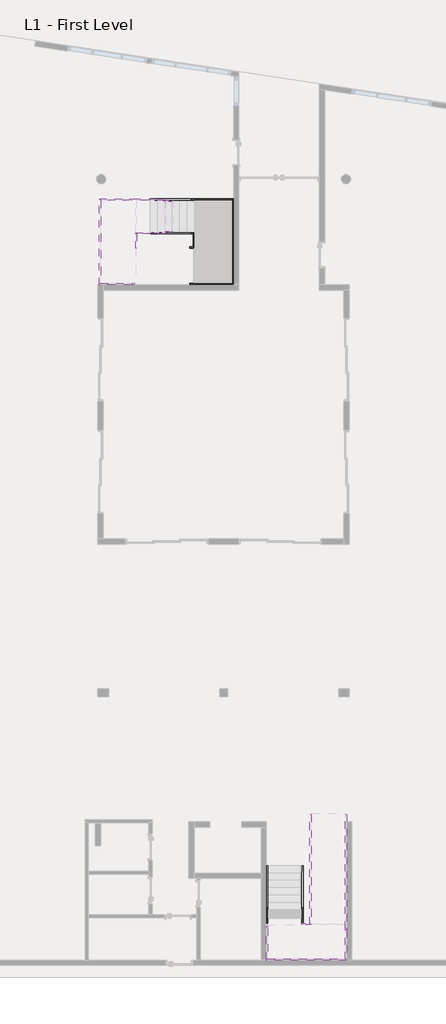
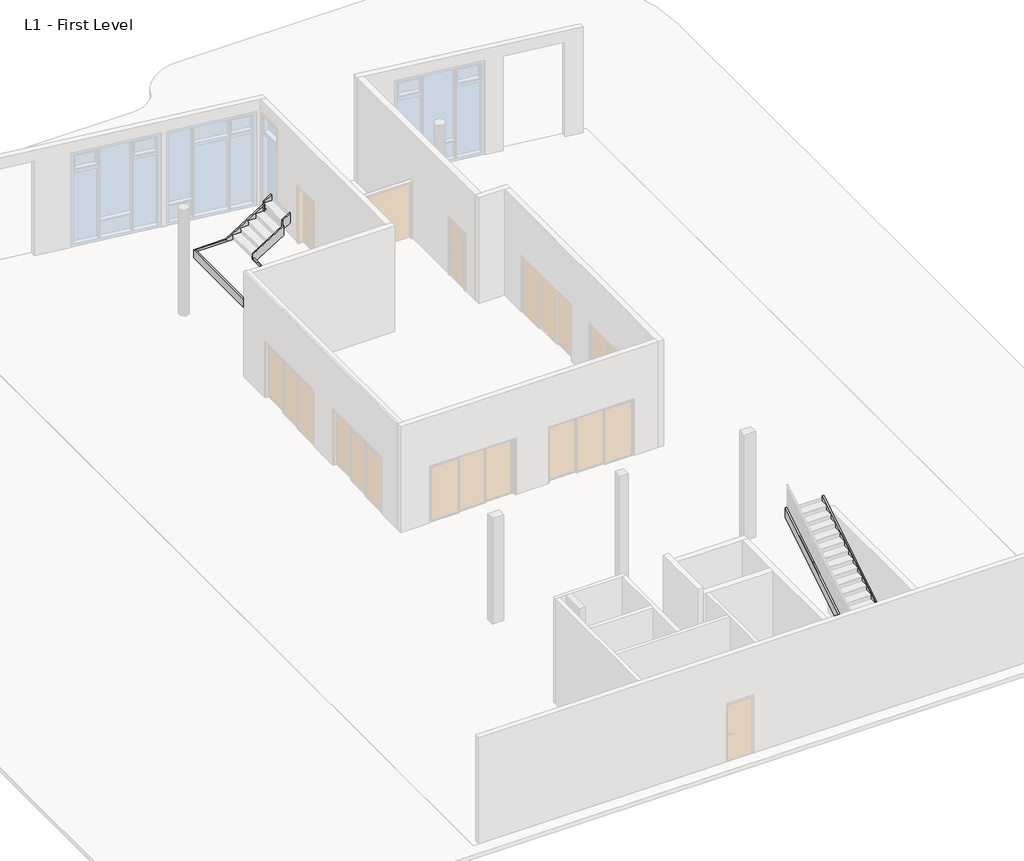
# One storey, part 4 of 4: 24 members.
"""IFC4 building model written with IfcOpenShell, lengths in millimetres."""

from ifc_helpers import new_model, si_unit, frame, origin, place, context, project, spatial, polyline, outline, extrude, faceted_brep, element, save

model = new_model("IFC4")

# Units and contexts
model_context = context("Model", 3, world=origin())
ifc_project = project(units=[si_unit("LENGTHUNIT", "METRE", prefix="MILLI")], contexts=[model_context])

# Site, building, storey
site = spatial("IfcSite", under=ifc_project)
building = spatial("IfcBuilding", under=site)
storey = spatial("IfcBuildingStorey", under=building, Name="L1 - First Level", Elevation=152.4)

# Members
placement = place(None, origin())
element("IfcMember", 1, ObjectType="Stringer - 2\" Width", at=placement, inside=storey, context=model_context, shape_type="SweptSolid", body=[
    extrude(outline(polyline([(367.025224, 11696.7000296), (152.4, 11696.7000296), (152.4, 11927.5811178), (1160.6695652, 13521.9073678), (1465.4695652, 13433.6151441), (367.025224, 11696.7000296)])), frame((0.0, 29527.4998803, 0.0), z_axis=(0.0, 1.0, 0.0), x_axis=(0.0, 0.0, 1.0)), (0.0, 0.0, 1.0), 50.8),
])
element("IfcMember", 2, ObjectType="Stringer - 2\" Width", at=placement, inside=storey, context=model_context, shape_type="SweptSolid", body=[
    extrude(outline(polyline([(367.025224, 11696.7000296), (152.4, 11696.7000296), (152.4, 11927.5811178), (1034.4356754, 13322.3000296), (1395.0726548, 13322.3000296), (367.025224, 11696.7000296)])), frame((0.0, 28244.8058669, 0.0), z_axis=(0.0, 1.0, 0.0), x_axis=(0.0, 0.0, 1.0)), (0.0, 0.0, 1.0), 50.8),
])
element("IfcMember", 3, ObjectType="Stringer - 2\" Width", at=placement, inside=storey, context=model_context, shape_type="SweptSolid", body=[
    extrude(outline(polyline([(1160.6695652, 13503.6926913), (1465.4695652, 13591.984915), (3055.7304348, 11077.384915), (2750.9304348, 10989.0926913), (1160.6695652, 13503.6926913)])), frame((0.0, 26315.1151067, 0.0), z_axis=(0.0, 1.0, 0.0), x_axis=(0.0, 0.0, 1.0)), (0.0, 0.0, 1.0), 50.8),
])
element("IfcMember", 4, ObjectType="Stringer - 2\" Width", at=placement, inside=storey, context=model_context, shape_type="SweptSolid", body=[
    extrude(outline(polyline([(1243.2578098, 13373.1000296), (1603.8947892, 13373.1000296), (2985.3335244, 11188.7000296), (2624.696545, 11188.7000296), (1243.2578098, 13373.1000296)])), frame((0.0, 27698.7058721, 0.0), z_axis=(0.0, 1.0, 0.0), x_axis=(0.0, 0.0, 1.0)), (0.0, 0.0, 1.0), 50.8),
])
element("IfcMember", 5, ObjectType="Stringer - 2\" Width", at=placement, inside=storey, context=model_context, shape_type="Brep", body=[
    faceted_brep([(13591.984915, 26365.9151067, 1465.4695652), (13591.984915, 26315.1151067, 1465.4695652), (14852.6500296, 26315.1151067, 1465.4695652), (14801.8500296, 26365.9151067, 1465.4695652), (13503.6926913, 26365.9151067, 1160.6695652), (14801.8500296, 26365.9151067, 1160.6695652), (13503.6926913, 26315.1151067, 1160.6695652), (14852.6500296, 26315.1151067, 1160.6695652)], [[[0, 1, 2, 3]], [[4, 0, 3, 5]], [[6, 4, 5, 7]], [[1, 6, 7, 2]], [[1, 0, 4, 6]], [[2, 7, 5, 3]]]),
])
element("IfcMember", 6, ObjectType="Stringer - 2\" Width", at=placement, inside=storey, context=model_context, shape_type="SweptSolid", body=[
    extrude(outline(polyline([(14852.6500296, 26315.1151067), (14801.8500296, 26365.9151067), (14801.8500296, 29527.4998803), (14852.6500296, 29578.2998803), (14852.6500296, 26315.1151067)])), frame((0.0, 0.0, 1160.6695652), z_axis=(0.0, 0.0, 1.0), x_axis=(1.0, 0.0, 0.0)), (0.0, 0.0, 1.0), 304.8),
])
element("IfcMember", 7, ObjectType="Stringer - 2\" Width", at=placement, inside=storey, context=model_context, shape_type="Brep", body=[
    faceted_brep([(14801.8500296, 29527.4998803, 1465.4695652), (14852.6500296, 29578.2998803, 1465.4695652), (13433.6151441, 29578.2998803, 1465.4695652), (13433.6151441, 29527.4998803, 1465.4695652), (14801.8500296, 29527.4998803, 1160.6695652), (13521.9073678, 29527.4998803, 1160.6695652), (14852.6500296, 29578.2998803, 1160.6695652), (13521.9073678, 29578.2998803, 1160.6695652)], [[[0, 1, 2, 3]], [[4, 0, 3, 5]], [[6, 4, 5, 7]], [[1, 6, 7, 2]], [[1, 0, 4, 6]], [[2, 7, 5, 3]]]),
])
element("IfcMember", 8, ObjectType="Stringer - 2\" Width", at=placement, inside=storey, context=model_context, shape_type="SweptSolid", body=[
    extrude(outline(polyline([(13322.3000296, 28295.6058669), (13373.1000296, 28295.6058669), (13373.1000296, 27749.5058721), (13322.3000296, 27749.5058721), (13322.3000296, 28295.6058669)])), frame((0.0, 0.0, 1160.6695652), z_axis=(0.0, 0.0, 1.0), x_axis=(1.0, 0.0, 0.0)), (0.0, 0.0, 1.0), 304.8),
])
element("IfcMember", 9, ObjectType="Stringer - 2\" Width", at=placement, inside=storey, context=model_context, shape_type="SweptSolid", body=[
    extrude(outline(polyline([(3055.7304348, 10919.0151441), (2750.9304348, 11007.3073678), (3540.301288, 12255.5000296), (3900.9382675, 12255.5000296), (3055.7304348, 10919.0151441)])), frame((0.0, 29527.4998803, 0.0), z_axis=(0.0, 1.0, 0.0), x_axis=(0.0, 0.0, 1.0)), (0.0, 0.0, 1.0), 50.8),
])
element("IfcMember", 10, ObjectType="Stringer - 2\" Width", at=placement, inside=storey, context=model_context, shape_type="SweptSolid", body=[
    extrude(outline(polyline([(3194.1556588, 11137.9000296), (2833.5186793, 11137.9000296), (3540.301288, 12255.5000296), (3900.9382675, 12255.5000296), (3194.1556588, 11137.9000296)])), frame((0.0, 28244.8058669, 0.0), z_axis=(0.0, 1.0, 0.0), x_axis=(0.0, 0.0, 1.0)), (0.0, 0.0, 1.0), 50.8),
])
element("IfcMember", 11, ObjectType="Stringer - 2\" Width", at=placement, inside=storey, context=model_context, shape_type="Brep", body=[
    faceted_brep([(10919.0151441, 29527.4998803, 3055.7304348), (10919.0151441, 29578.2998803, 3055.7304348), (9753.6000088, 29578.2998803, 3055.7304348), (9804.4000088, 29527.4998803, 3055.7304348), (11007.3073678, 29527.4998803, 2750.9304348), (9804.4000088, 29527.4998803, 2750.9304348), (11007.3073678, 29578.2998803, 2750.9304348), (9753.6000088, 29578.2998803, 2750.9304348)], [[[0, 1, 2, 3]], [[4, 0, 3, 5]], [[6, 4, 5, 7]], [[1, 6, 7, 2]], [[1, 0, 4, 6]], [[2, 7, 5, 3]]]),
])
element("IfcMember", 12, ObjectType="Stringer - 2\" Width", at=placement, inside=storey, context=model_context, shape_type="SweptSolid", body=[
    extrude(outline(polyline([(9753.6000088, 29578.2998803), (9804.4000088, 29527.4998803), (9804.4000088, 26365.9151067), (9753.6000088, 26315.1151067), (9753.6000088, 29578.2998803)])), frame((0.0, 0.0, 2750.9304348), z_axis=(0.0, 0.0, 1.0), x_axis=(1.0, 0.0, 0.0)), (0.0, 0.0, 1.0), 304.8),
])
element("IfcMember", 13, ObjectType="Stringer - 2\" Width", at=placement, inside=storey, context=model_context, shape_type="Brep", body=[
    faceted_brep([(9804.4000088, 26365.9151067, 3055.7304348), (9753.6000088, 26315.1151067, 3055.7304348), (11077.384915, 26315.1151067, 3055.7304348), (11077.384915, 26365.9151067, 3055.7304348), (9804.4000088, 26365.9151067, 2750.9304348), (10989.0926913, 26365.9151067, 2750.9304348), (9753.6000088, 26315.1151067, 2750.9304348), (10989.0926913, 26315.1151067, 2750.9304348)], [[[0, 1, 2, 3]], [[4, 0, 3, 5]], [[6, 4, 5, 7]], [[1, 6, 7, 2]], [[1, 0, 4, 6]], [[2, 7, 5, 3]]]),
])
element("IfcMember", 14, ObjectType="Stringer - 2\" Width", at=placement, inside=storey, context=model_context, shape_type="SweptSolid", body=[
    extrude(outline(polyline([(11188.7000296, 27698.7058721), (11137.9000296, 27698.7058721), (11137.9000296, 28244.8058669), (11188.7000296, 28244.8058669), (11188.7000296, 27698.7058721)])), frame((0.0, 0.0, 2750.9304348), z_axis=(0.0, 0.0, 1.0), x_axis=(1.0, 0.0, 0.0)), (0.0, 0.0, 1.0), 304.8),
])
element("IfcMember", 15, ObjectType="Stringer - 2\" Width", at=placement, inside=storey, context=model_context, shape_type="SweptSolid", body=[
    extrude(outline(polyline([(4241.8, 365.6566451), (4241.8, 152.4), (4007.1102517, 152.4), (2057.4, 1357.6754283), (2057.4, 1716.0130088), (4241.8, 365.6566451)])), frame((17449.81205, 0.0, 0.0), z_axis=(1.0, 0.0, 0.0), x_axis=(0.0, 1.0, 0.0)), (0.0, 0.0, 1.0), 50.8),
])
element("IfcMember", 16, ObjectType="Stringer - 2\" Width", at=placement, inside=storey, context=model_context, shape_type="SweptSolid", body=[
    extrude(outline(polyline([(4241.8, 365.6566451), (4241.8, 152.4), (4007.1102517, 152.4), (1862.3043694, 1478.28), (1948.9092789, 1783.08), (4241.8, 365.6566451)])), frame((16103.3309087, 0.0, 0.0), z_axis=(1.0, 0.0, 0.0), x_axis=(0.0, 1.0, 0.0)), (0.0, 0.0, 1.0), 50.8),
])
element("IfcMember", 17, ObjectType="Stringer - 2\" Width", at=placement, inside=storey, context=model_context, shape_type="SweptSolid", body=[
    extrude(outline(polyline([(2006.6, 1561.7990647), (2006.6, 1920.1366451), (6197.6, 4510.9366451), (6197.6, 4152.5990647), (2006.6, 1561.7990647)])), frame((17754.604894, 0.0, 0.0), z_axis=(1.0, 0.0, 0.0), x_axis=(0.0, 1.0, 0.0)), (0.0, 0.0, 1.0), 50.8),
])
element("IfcMember", 18, ObjectType="Stringer - 2\" Width", at=placement, inside=storey, context=model_context, shape_type="SweptSolid", body=[
    extrude(outline(polyline([(1871.4956307, 1478.28), (1784.8907211, 1783.08), (6197.6, 4510.9366451), (6197.6, 4152.5990647), (1871.4956307, 1478.28)])), frame((19103.0258576, 0.0, 0.0), z_axis=(1.0, 0.0, 0.0), x_axis=(0.0, 1.0, 0.0)), (0.0, 0.0, 1.0), 50.8),
])
element("IfcMember", 19, ObjectType="Stringer - 2\" Width", at=placement, inside=storey, context=model_context, shape_type="SweptSolid", body=[
    extrude(outline(polyline([(17754.604894, 2057.4), (17754.604894, 2006.6), (17449.81205, 2006.6), (17449.81205, 2057.4), (17754.604894, 2057.4)])), frame((0.0, 0.0, 1478.28), z_axis=(0.0, 0.0, 1.0), x_axis=(1.0, 0.0, 0.0)), (0.0, 0.0, 1.0), 304.8),
])
element("IfcMember", 20, ObjectType="Stringer - 2\" Width", at=placement, inside=storey, context=model_context, shape_type="Brep", body=[
    faceted_brep([(16154.1309087, 1948.9092789, 1783.08), (16103.3309087, 1948.9092789, 1783.08), (16103.3309087, 660.4, 1783.08), (16154.1309087, 711.2, 1783.08), (16154.1309087, 1862.3043694, 1478.28), (16154.1309087, 711.2, 1478.28), (16103.3309087, 1862.3043694, 1478.28), (16103.3309087, 660.4, 1478.28)], [[[0, 1, 2, 3]], [[4, 0, 3, 5]], [[6, 4, 5, 7]], [[1, 6, 7, 2]], [[1, 0, 4, 6]], [[2, 7, 5, 3]]]),
])
element("IfcMember", 21, ObjectType="Stringer - 2\" Width", at=placement, inside=storey, context=model_context, shape_type="SweptSolid", body=[
    extrude(outline(polyline([(16103.3309087, 660.4), (16154.1309087, 711.2), (19103.0258576, 711.2), (19153.8258576, 660.4), (16103.3309087, 660.4)])), frame((0.0, 0.0, 1478.28), z_axis=(0.0, 0.0, 1.0), x_axis=(1.0, 0.0, 0.0)), (0.0, 0.0, 1.0), 304.8),
])
element("IfcMember", 22, ObjectType="Stringer - 2\" Width", at=placement, inside=storey, context=model_context, shape_type="Brep", body=[
    faceted_brep([(19103.0258576, 711.2, 1783.08), (19153.8258576, 660.4, 1783.08), (19153.8258576, 1784.8907211, 1783.08), (19103.0258576, 1784.8907211, 1783.08), (19103.0258576, 711.2, 1478.28), (19103.0258576, 1871.4956307, 1478.28), (19153.8258576, 660.4, 1478.28), (19153.8258576, 1871.4956307, 1478.28)], [[[0, 1, 2, 3]], [[4, 0, 3, 5]], [[6, 4, 5, 7]], [[1, 6, 7, 2]], [[1, 0, 4, 6]], [[2, 7, 5, 3]]]),
])
element("IfcMember", 23, ObjectType="Stringer - 2\" Width", at=placement, inside=storey, context=model_context, shape_type="SweptSolid", body=[
    extrude(outline(polyline([(4077.6339197, 12255.5000296), (3716.9969402, 12255.5000296), (3893.6925924, 12534.9000296), (4254.3295718, 12534.9000296), (4077.6339197, 12255.5000296)])), frame((0.0, 29470.3528736, 0.0), z_axis=(0.0, 1.0, 0.0), x_axis=(0.0, 0.0, 1.0)), (0.0, 0.0, 1.0), 50.8),
])
element("IfcMember", 24, ObjectType="Stringer - 2\" Width", at=placement, inside=storey, context=model_context, shape_type="SweptSolid", body=[
    extrude(outline(polyline([(4077.6339197, 12255.5000296), (3716.9969402, 12255.5000296), (3893.6925924, 12534.9000296), (4254.3295718, 12534.9000296), (4077.6339197, 12255.5000296)])), frame((0.0, 28301.9528736, 0.0), z_axis=(0.0, 1.0, 0.0), x_axis=(0.0, 0.0, 1.0)), (0.0, 0.0, 1.0), 50.8),
])

save(model, "model.ifc")
